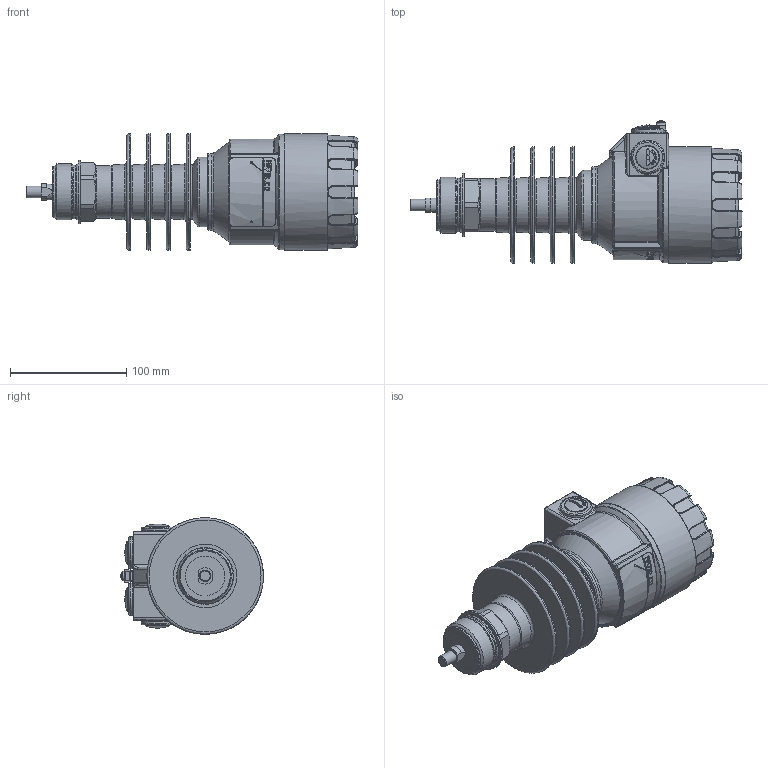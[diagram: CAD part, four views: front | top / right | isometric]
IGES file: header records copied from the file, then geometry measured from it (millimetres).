
Global section: file name: HHK_Alu_1.5 col; native system: Autodesk Inventor 2015; preprocessor: unknown; author: aantal; date: 20150619.130741; units: millimetre
Bounding box: 285.02 x 122.57 x 100.06 mm (x, y, z)
Volume: 1156195.3 mm3; surface area: 179677.2 mm2
Topology: 13 solids, 13 shells, 1322 faces, 3295 edges, 2051 vertices
Faces by surface type: bspline 1322
